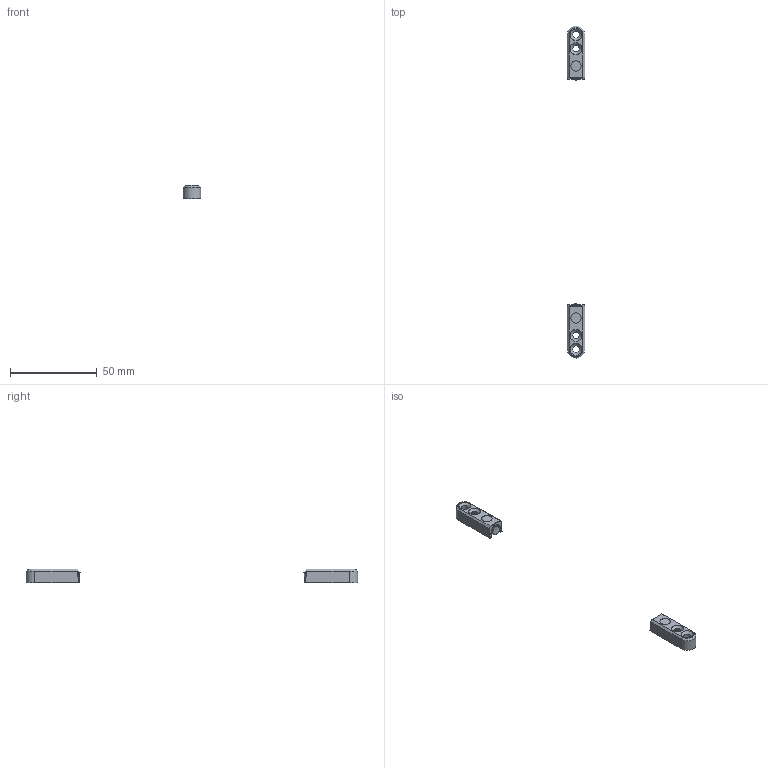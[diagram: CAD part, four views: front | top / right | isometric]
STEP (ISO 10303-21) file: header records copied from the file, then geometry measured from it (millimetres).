
FILE_DESCRIPTION((''),'2;1');
FILE_NAME('S:\Projekte\00 00 Datenarchiv\00.50- Kabelübergänge\M 12 80.stp','2011-09-15T15:19:08',('jsuarez'),(''),'Autodesk Inventor 2012','Autodesk Inventor 2012','');
FILE_SCHEMA(('AUTOMOTIVE_DESIGN { 1 0 10303 214 1 1 1 1 }'));
Length unit declared in the file: millimetre
Products named in the file (1): Bauteil4
Bounding box: 10 x 191 x 7.7 mm (x, y, z)
Volume: 4344.8 mm3; surface area: 11610 mm2
Topology: 3 solids, 3 shells, 154 faces, 436 edges, 268 vertices
Faces by surface type: cylinder 74, plane 50, torus 10, cone 8, bspline 8, sphere 4
Full cylindrical faces by diameter (mm): 0.75 x6, 2.5 x4, 3.7 x2, 4 x4, 6 x2, 6.9 x2
Entity records: 18027 total; most frequent: CARTESIAN_POINT 14039, ORIENTED_EDGE 784, DIRECTION 746, EDGE_CURVE 392, AXIS2_PLACEMENT_3D 288, VERTEX_POINT 260, EDGE_LOOP 232, VECTOR 170
